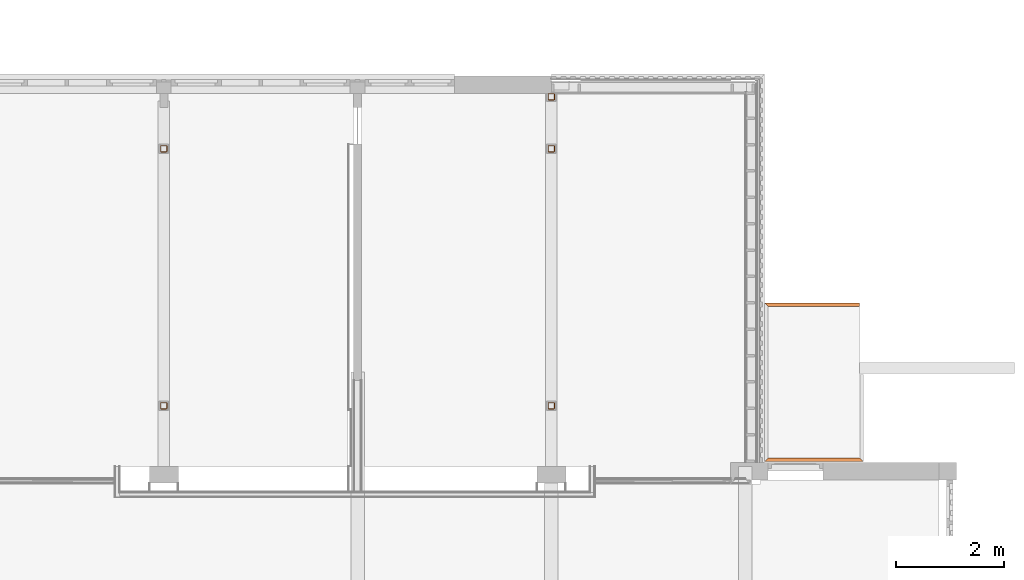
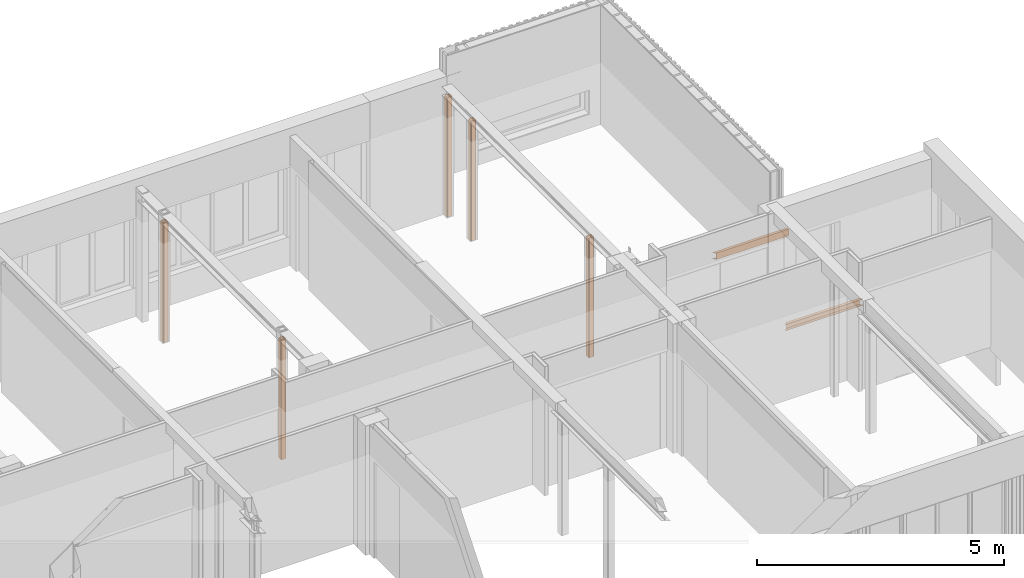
# One storey, part 87 of 99: 7 proxies.
"""IFC2X3 building model written with IfcOpenShell, lengths in millimetres."""

from ifc_helpers import new_model, entity, si_unit, converted_unit, derived_unit, money_unit, direction, frame, origin_with_axes, place, context, subcontext, project, spatial, faceted_brep, source, transform, mapped, material, type_object, type_shapes, element, save


model = new_model("IFC2X3")

# Units and contexts
model_context = context("Model", 3, precision=0.01, world=origin_with_axes(), true_north=direction((0.0, 1.0)))
body_context = subcontext(model_context, "Body", "Model", "MODEL_VIEW")
ifc_project = project(units=[si_unit("LENGTHUNIT", "METRE", prefix="MILLI"), si_unit("AREAUNIT", "SQUARE_METRE"), si_unit("VOLUMEUNIT", "CUBIC_METRE"), converted_unit("PLANEANGLEUNIT", "DEGREE", entity("IfcPlaneAngleMeasure", 0.0174532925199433), si_unit("PLANEANGLEUNIT", "RADIAN"), dimensions=[0, 0, 0, 0, 0, 0, 0]), money_unit("EUR"), converted_unit("TIMEUNIT", "Year", entity("IfcTimeMeasure", 31557600.0), si_unit("TIMEUNIT", "SECOND"), dimensions=[0, 0, 1, 0, 0, 0, 0]), si_unit("MASSUNIT", "GRAM", prefix="KILO"), si_unit("THERMODYNAMICTEMPERATUREUNIT", "DEGREE_CELSIUS"), si_unit("LUMINOUSINTENSITYUNIT", "LUMEN"), si_unit("ENERGYUNIT", "JOULE", prefix="MEGA"), derived_unit("THERMALCONDUCTANCEUNIT", [(si_unit("POWERUNIT", "WATT"), 1), (si_unit("LENGTHUNIT", "METRE"), -1), (si_unit("THERMODYNAMICTEMPERATUREUNIT", "KELVIN"), -1)]), derived_unit("SPECIFICHEATCAPACITYUNIT", [(si_unit("ENERGYUNIT", "JOULE"), 1), (si_unit("MASSUNIT", "GRAM", prefix="KILO"), -1), (si_unit("THERMODYNAMICTEMPERATUREUNIT", "KELVIN"), -1)]), derived_unit("MASSDENSITYUNIT", [(si_unit("MASSUNIT", "GRAM", prefix="KILO"), 1), (si_unit("VOLUMEUNIT", "CUBIC_METRE"), -1)])], contexts=[model_context])

# Site, building, storey
site_placement = place(None, origin_with_axes())
site = spatial("IfcSite", under=ifc_project, at=site_placement, Name="Site", CompositionType="ELEMENT")
building_placement = place(site_placement, origin_with_axes())
building = spatial("IfcBuilding", under=site, at=building_placement, Name="Naam gebouw", CompositionType="ELEMENT")
storey_placement = place(building_placement, frame((0.0, 0.0, 7650.0), z_axis=(0.0, 0.0, 1.0), x_axis=(1.0, 0.0, 0.0)))
storey = spatial("IfcBuildingStorey", under=building, at=storey_placement, Name="2e verdieping N", CompositionType="ELEMENT", Elevation=7650.0)

# Proxies
ifc_material = material(Name="Metaal - Staal AFW")
building_element_proxy_type_1 = type_object("IfcBuildingElementProxyType", Name="UPN balk 27", PredefinedType="NOTDEFINED")
shared_shape_1 = source(origin_with_axes(), body_context, "Body", "Brep", [
    faceted_brep([(-1737.152777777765, -32.50000000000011, 160.0000000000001), (-32.49999999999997, -32.5, 160.0), (32.49999999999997, 32.5, 160.0), (-1802.152777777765, 32.49999999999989, 160.0000000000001), (-1769.652777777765, 0.0, 160.0000000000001), (-1737.152777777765, -32.50000000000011, 0.0), (-32.49999999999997, -32.5, 0.0), (32.49999999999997, 32.5, 0.0), (32.49999999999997, 32.5, 4.999999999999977), (31.76313972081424, 31.76313972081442, 7.749999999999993), (29.74999999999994, 29.75000000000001, 9.763139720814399), (26.99999999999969, 27.00000000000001, 10.49999999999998), (-14.49999999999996, -14.5, 10.50000000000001), (-19.75000000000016, -19.75, 11.9067332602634), (-23.59326673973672, -23.59326673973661, 15.75000000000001), (-24.99999999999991, -25.0, 21.0), (-24.99999999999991, -25.0, 139.0), (-23.59326673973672, -23.59326673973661, 144.25), (-19.75000000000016, -19.75, 148.0932667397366), (-14.49999999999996, -14.5, 149.5), (26.99999999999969, 27.00000000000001, 149.5), (29.74999999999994, 29.75000000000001, 150.2368602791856), (31.76313972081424, 31.76313972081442, 152.25), (32.49999999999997, 32.5, 155.0), (-1802.152777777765, 32.49999999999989, 155.0000000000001), (-1769.652777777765, 0.0, 10.50000000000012), (-1796.652777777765, 26.9999999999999, 10.50000000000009), (-1799.402777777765, 29.7499999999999, 9.76313972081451), (-1801.415917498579, 31.76313972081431, 7.750000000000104), (-1802.152777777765, 32.49999999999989, 5.000000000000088), (-1802.152777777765, 32.49999999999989, 0.0), (-1769.652777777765, 0.0, 0.0), (-1801.415917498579, 31.76313972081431, 152.2500000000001), (-1799.402777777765, 29.7499999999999, 150.2368602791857), (-1796.652777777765, 26.9999999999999, 149.5000000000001), (-1769.652777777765, 0.0, 149.5000000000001), (-1755.152777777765, -14.50000000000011, 149.5000000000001), (-1749.902777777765, -19.7500000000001, 148.0932667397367), (-1746.059511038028, -23.59326673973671, 144.2500000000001), (-1744.652777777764, -25.00000000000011, 139.0000000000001), (-1744.652777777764, -25.00000000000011, 21.00000000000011), (-1746.059511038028, -23.59326673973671, 15.75000000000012), (-1749.902777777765, -19.7500000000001, 11.90673326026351), (-1755.152777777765, -14.50000000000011, 10.50000000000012)], [[[0, 1, 2, 3, 4]], [[5, 6, 1, 0]], [[1, 6, 7, 8, 9, 10, 11, 12, 13, 14, 15, 16, 17, 18, 19, 20, 21, 22, 23, 2]], [[24, 3, 2, 23]], [[25, 26, 27, 28, 29, 30, 31, 5, 0, 4, 3, 24, 32, 33, 34, 35, 36, 37, 38, 39, 40, 41, 42, 43]], [[31, 30, 7, 6, 5]], [[30, 29, 8, 7]], [[29, 28, 9, 8]], [[28, 27, 10, 9]], [[27, 26, 11, 10]], [[43, 12, 11, 26, 25]], [[42, 13, 12, 43]], [[41, 14, 13, 42]], [[40, 15, 14, 41]], [[39, 16, 15, 40]], [[38, 17, 16, 39]], [[37, 18, 17, 38]], [[36, 19, 18, 37]], [[35, 34, 20, 19, 36]], [[34, 33, 21, 20]], [[33, 32, 22, 21]], [[32, 24, 23, 22]]]),
])
proxy_1_placement = place(storey_placement, frame((54397.49999999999, 20698.4124251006, -147.3277191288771), z_axis=(0.0, 0.0, 1.0), x_axis=(-1.0, 0.0, 0.0)))
element("IfcBuildingElementProxy", 1, at=proxy_1_placement, inside=storey, type_object=building_element_proxy_type_1, material=ifc_material, Name="_Boom-x", context=body_context, shape_type="MappedRepresentation", body=[
    mapped(shared_shape_1, transform((0.0, 0.0, 0.0))),
])
shared_shape_2 = source(origin_with_axes(), body_context, "Body", "Brep", [
    faceted_brep([(0.0, 0.0, 160.0), (32.49999999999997, -32.5, 160.0), (1727.152777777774, -32.50000000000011, 160.0000000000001), (1727.152777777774, 32.49999999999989, 160.0000000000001), (-32.49999999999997, 32.5, 160.0), (0.0, 0.0, 149.5), (14.49999999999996, -14.5, 149.5), (19.74999999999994, -19.75, 148.0932667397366), (23.5932667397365, -23.59326673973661, 144.2500000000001), (24.99999999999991, -25.0, 139.0), (24.99999999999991, -25.0, 21.0), (23.5932667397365, -23.59326673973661, 15.75000000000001), (19.74999999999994, -19.75, 11.9067332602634), (14.49999999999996, -14.5, 10.49999999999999), (0.0, 0.0, 10.50000000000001), (-26.99999999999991, 27.00000000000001, 10.49999999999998), (-29.74999999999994, 29.75000000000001, 9.763139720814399), (-31.76313972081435, 31.76313972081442, 7.749999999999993), (-32.49999999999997, 32.5, 4.999999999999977), (-32.49999999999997, 32.5, 0.0), (0.0, 0.0, 0.0), (32.49999999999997, -32.5, 0.0), (-32.49999999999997, 32.5, 155.0), (-31.76313972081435, 31.76313972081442, 152.25), (-29.74999999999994, 29.75000000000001, 150.2368602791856), (-26.99999999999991, 27.00000000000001, 149.5), (1727.152777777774, -32.50000000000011, 0.0), (1727.152777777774, 29.7499999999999, 150.2368602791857), (1727.152777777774, 31.76313972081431, 152.2500000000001), (1727.152777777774, 32.49999999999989, 155.0000000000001), (1727.152777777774, 32.49999999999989, 0.0), (1727.152777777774, 32.49999999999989, 5.000000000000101), (1727.152777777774, 31.76313972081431, 7.750000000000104), (1727.152777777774, 29.7499999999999, 9.76313972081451), (1727.152777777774, 26.9999999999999, 10.50000000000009), (1727.152777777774, -14.5000000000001, 10.50000000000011), (1727.152777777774, -19.7500000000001, 11.90673326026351), (1727.152777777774, -23.59326673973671, 15.75000000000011), (1727.152777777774, -25.00000000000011, 21.00000000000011), (1727.152777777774, -25.00000000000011, 139.0000000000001), (1727.152777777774, -23.59326673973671, 144.2500000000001), (1727.152777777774, -19.7500000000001, 148.0932667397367), (1727.152777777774, -14.5000000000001, 149.5000000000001), (1727.152777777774, 26.9999999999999, 149.5000000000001)], [[[0, 1, 2, 3, 4]], [[5, 6, 7, 8, 9, 10, 11, 12, 13, 14, 15, 16, 17, 18, 19, 20, 21, 1, 0, 4, 22, 23, 24, 25]], [[1, 21, 26, 2]], [[27, 28, 29, 3, 2, 26, 30, 31, 32, 33, 34, 35, 36, 37, 38, 39, 40, 41, 42, 43]], [[4, 3, 29, 22]], [[6, 5, 25, 43, 42]], [[7, 6, 42, 41]], [[8, 7, 41, 40]], [[9, 8, 40, 39]], [[10, 9, 39, 38]], [[11, 10, 38, 37]], [[12, 11, 37, 36]], [[13, 12, 36, 35]], [[14, 13, 35, 34, 15]], [[15, 34, 33, 16]], [[16, 33, 32, 17]], [[17, 32, 31, 18]], [[18, 31, 30, 19]], [[21, 20, 19, 30, 26]], [[22, 29, 28, 23]], [[23, 28, 27, 24]], [[24, 27, 43, 25]]]),
])
type_shapes(building_element_proxy_type_1, [shared_shape_1, shared_shape_2])
proxy_2_placement = place(storey_placement, frame((54397.49999999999, 23583.4124251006, -147.3277191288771), z_axis=(0.0, 0.0, 1.0), x_axis=(1.0, 0.0, 0.0)))
element("IfcBuildingElementProxy", 2, at=proxy_2_placement, inside=storey, type_object=building_element_proxy_type_1, material=ifc_material, Name="_Boom-x", context=body_context, shape_type="MappedRepresentation", body=[
    mapped(shared_shape_2, transform((0.0, 0.0, 0.0))),
])
building_element_proxy_type_2 = type_object("IfcBuildingElementProxyType", Name="Buis vk warmgew kolom 27", PredefinedType="NOTDEFINED")
shared_shape_3 = source(origin_with_axes(), body_context, "Body", "Brep", [
    faceted_brep([(49.99999999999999, -60.0, 0.0), (49.99999999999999, -60.0, 2959.999999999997), (-49.99999999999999, -60.0, 2959.999999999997), (-49.99999999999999, -60.0, 0.0), (57.07106781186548, -57.07106781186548, 0.0), (57.07106781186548, -57.07106781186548, 2959.999999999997), (60.0, -49.99999999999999, 2959.999999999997), (60.00000000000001, 49.99999999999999, 2959.999999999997), (57.07106781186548, 57.07106781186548, 2959.999999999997), (49.99999999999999, 60.0, 2959.999999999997), (-49.99999999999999, 60.00000000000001, 2959.999999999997), (-57.07106781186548, 57.07106781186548, 2959.999999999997), (-60.0, 49.99999999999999, 2959.999999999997), (-60.00000000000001, -49.99999999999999, 2959.999999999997), (-57.07106781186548, -57.07106781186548, 2959.999999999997), (49.99999999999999, -55.0, 2959.999999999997), (-49.99999999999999, -55.0, 2959.999999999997), (-53.53553390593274, -53.53553390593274, 2959.999999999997), (-55.0, -49.99999999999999, 2959.999999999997), (-55.0, 49.99999999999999, 2959.999999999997), (-53.53553390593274, 53.53553390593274, 2959.999999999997), (-49.99999999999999, 55.0, 2959.999999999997), (49.99999999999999, 55.0, 2959.999999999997), (53.53553390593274, 53.53553390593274, 2959.999999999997), (55.0, 49.99999999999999, 2959.999999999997), (55.0, -49.99999999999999, 2959.999999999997), (53.53553390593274, -53.53553390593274, 2959.999999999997), (-57.07106781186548, -57.07106781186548, 0.0), (-60.00000000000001, -49.99999999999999, 0.0), (-60.0, 49.99999999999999, 0.0), (-57.07106781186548, 57.07106781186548, 0.0), (-49.99999999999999, 60.00000000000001, 0.0), (49.99999999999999, 60.0, 0.0), (57.07106781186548, 57.07106781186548, 0.0), (60.00000000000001, 49.99999999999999, 0.0), (60.0, -49.99999999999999, 0.0), (49.99999999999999, -55.0, 0.0), (53.53553390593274, -53.53553390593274, 0.0), (55.0, -49.99999999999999, 0.0), (55.0, 49.99999999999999, 0.0), (53.53553390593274, 53.53553390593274, 0.0), (49.99999999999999, 55.0, 0.0), (-49.99999999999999, 55.0, 0.0), (-53.53553390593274, 53.53553390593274, 0.0), (-55.0, 49.99999999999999, 0.0), (-55.0, -49.99999999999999, 0.0), (-53.53553390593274, -53.53553390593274, 0.0), (-49.99999999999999, -55.0, 0.0)], [[[0, 1, 2, 3]], [[4, 5, 1, 0]], [[1, 5, 6, 7, 8, 9, 10, 11, 12, 13, 14, 2], [15, 16, 17, 18, 19, 20, 21, 22, 23, 24, 25, 26]], [[3, 2, 14, 27]], [[0, 3, 27, 28, 29, 30, 31, 32, 33, 34, 35, 4], [36, 37, 38, 39, 40, 41, 42, 43, 44, 45, 46, 47]], [[35, 6, 5, 4]], [[34, 7, 6, 35]], [[33, 8, 7, 34]], [[32, 9, 8, 33]], [[31, 10, 9, 32]], [[30, 11, 10, 31]], [[29, 12, 11, 30]], [[28, 13, 12, 29]], [[27, 14, 13, 28]], [[47, 16, 15, 36]], [[46, 17, 16, 47]], [[45, 18, 17, 46]], [[44, 19, 18, 45]], [[43, 20, 19, 44]], [[42, 21, 20, 43]], [[41, 22, 21, 42]], [[40, 23, 22, 41]], [[39, 24, 23, 40]], [[38, 25, 24, 39]], [[37, 26, 25, 38]], [[36, 15, 26, 37]]]),
])
type_shapes(building_element_proxy_type_2, [shared_shape_3])
for number, where, z_axis, x_axis, name in (
    (3, (50399.99999999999, 21705.91242510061, 0.0), (0.0, 0.0, 1.0), (0.0, -1.0, 0.0), "_Boom-x"),
    (4, (50399.99999999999, 27445.91242510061, 0.0), (0.0, 0.0, 1.0), (0.0, -1.0, 0.0), "_Boom-x"),
    (5, (50399.99999999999, 26480.91242510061, 0.0), (0.0, 0.0, 1.0), (0.0, -1.0, 0.0), "_Boom-x"),
    (6, (43199.99999999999, 26480.91242510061, 0.0), (0.0, 0.0, 1.0), (0.0, -1.0, 0.0), "_Boom-x"),
    (7, (43199.99999999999, 21705.91242510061, 0.0), (0.0, 0.0, 1.0), (0.0, -1.0, 0.0), "_Boom-x"),
):
    element("IfcBuildingElementProxy", number, at=place(storey_placement, frame(where, z_axis=z_axis, x_axis=x_axis)), inside=storey, type_object=building_element_proxy_type_2, material=ifc_material, Name=name, context=body_context, shape_type="MappedRepresentation", body=[
        mapped(shared_shape_3, transform((0.0, 0.0, 0.0))),
    ])

save(model, "model.ifc")
